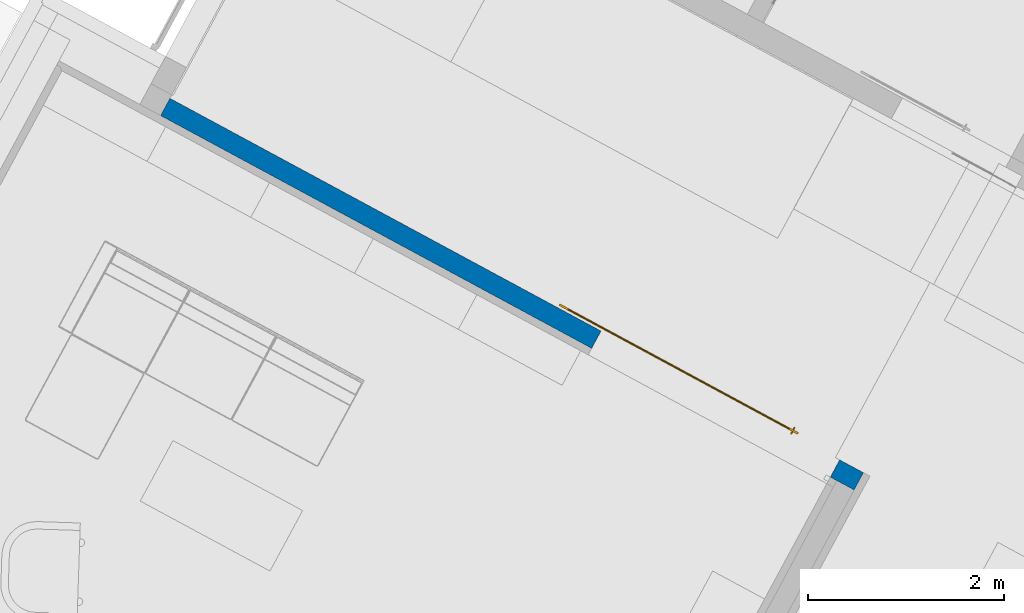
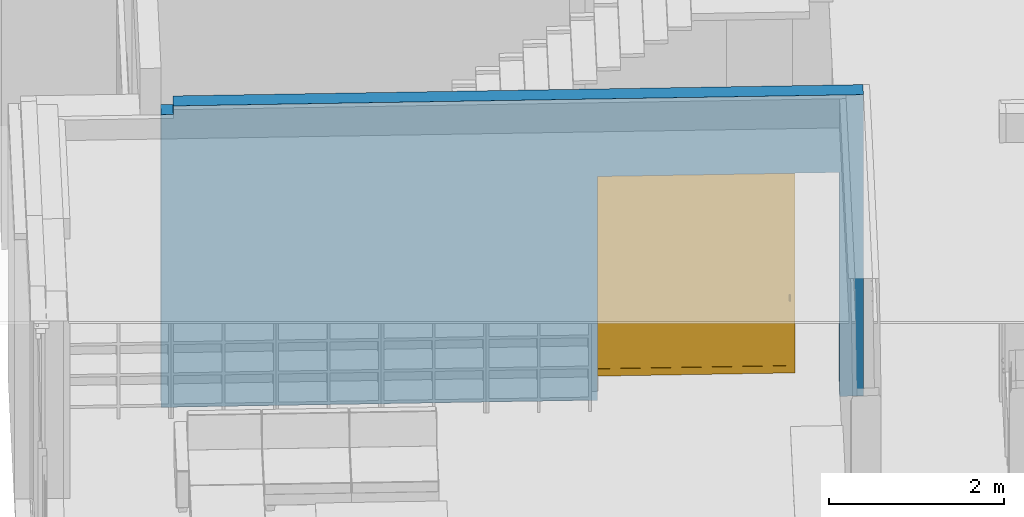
# One storey, part 7 of 52: 1 door, 1 wall, 1 opening.
"""IFC2X3 building model written with IfcOpenShell, lengths in metres."""

from ifc_helpers import new_model, entity, si_unit, converted_unit, derived_unit, money_unit, direction, frame, origin_with_axes, origin_2d_with_axis, place, context, subcontext, project, spatial, rectangle, extrude, faceted_brep, material, type_object, element, fill, save


model = new_model("IFC2X3")

# Units and contexts
model_context = context("Model", 3, precision=1e-05, world=origin_with_axes(), true_north=direction((0.0, 1.0)))
body_context = subcontext(model_context, "Body", "Model", "MODEL_VIEW")
ifc_project = project(units=[si_unit("LENGTHUNIT", "METRE"), si_unit("AREAUNIT", "SQUARE_METRE"), si_unit("VOLUMEUNIT", "CUBIC_METRE"), converted_unit("PLANEANGLEUNIT", "DEGREE", entity("IfcPlaneAngleMeasure", 0.0174532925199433), si_unit("PLANEANGLEUNIT", "RADIAN"), dimensions=[0, 0, 0, 0, 0, 0, 0]), money_unit("EUR"), converted_unit("TIMEUNIT", "Year", entity("IfcTimeMeasure", 31556926.0), si_unit("TIMEUNIT", "SECOND"), dimensions=[0, 0, 1, 0, 0, 0, 0]), si_unit("MASSUNIT", "GRAM", prefix="KILO"), si_unit("THERMODYNAMICTEMPERATUREUNIT", "DEGREE_CELSIUS"), si_unit("LUMINOUSINTENSITYUNIT", "LUMEN"), si_unit("ENERGYUNIT", "JOULE", prefix="MEGA"), derived_unit("THERMALCONDUCTANCEUNIT", [(si_unit("POWERUNIT", "WATT"), 1), (si_unit("LENGTHUNIT", "METRE"), -1), (si_unit("THERMODYNAMICTEMPERATUREUNIT", "KELVIN"), -1)]), derived_unit("SPECIFICHEATCAPACITYUNIT", [(si_unit("ENERGYUNIT", "JOULE"), 1), (si_unit("MASSUNIT", "GRAM", prefix="KILO"), -1), (si_unit("THERMODYNAMICTEMPERATUREUNIT", "KELVIN"), -1)]), derived_unit("MASSDENSITYUNIT", [(si_unit("MASSUNIT", "GRAM", prefix="KILO"), 1), (si_unit("VOLUMEUNIT", "CUBIC_METRE"), -1)])], contexts=[model_context])

# Site, building, storey
site_placement = place(None, frame((-3.949935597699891, 1.740105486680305, 0.0), z_axis=(0.0, 0.0, 1.0), x_axis=(0.8799804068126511, -0.475009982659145, 0.0)))
site = spatial("IfcSite", under=ifc_project, at=site_placement, Name="Gelände", CompositionType="ELEMENT")
building_placement = place(site_placement, origin_with_axes())
building = spatial("IfcBuilding", under=site, at=building_placement, Name="Gebäude", CompositionType="ELEMENT")
storey_placement = place(building_placement, origin_with_axes())
storey = spatial("IfcBuildingStorey", under=building, at=storey_placement, Name="Erdgeschoss", CompositionType="ELEMENT", Elevation=0.0)

# Wall, opening, door
ifc_material = material(Name="_SIWH - Beton, Stahlbeton")
wall_type = type_object("IfcWallType", Name="_SIWH - WI | Stb. 20 | 20cm 200", PredefinedType="NOTDEFINED")
wall_placement = place(storey_placement, frame((5.597481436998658, 7.153034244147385, -0.18), z_axis=(0.0, 0.0, 1.0), x_axis=(0.9999999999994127, 1.083822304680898e-06, 0.0)))
wall = element("IfcWall", 1, at=wall_placement, inside=storey, type_object=wall_type, material=ifc_material, Name="I-Wand004", context=body_context, shape_type="Brep", body=[
    faceted_brep([(4.98670279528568, 0.1999945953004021, 3.12), (4.98670279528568, 0.1999945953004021, 0.18), (4.986702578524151, 0.1999945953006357, 0.0), (2.167644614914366e-07, 0.1999999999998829, 0.0), (2.167644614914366e-07, 0.1999999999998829, 4.080000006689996), (0.1399994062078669, 0.1999998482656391, 4.080000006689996), (0.1399994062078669, 0.1999998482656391, 4.200000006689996), (8.021702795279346, 0.199991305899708, 4.200000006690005), (8.021702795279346, 0.1999913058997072, 0.0), (7.746702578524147, 0.1999916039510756, 0.0), (7.746702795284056, 0.1999916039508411, 0.18), (7.746702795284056, 0.1999916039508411, 3.12), (4.98670257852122, -5.404699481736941e-06, 3.12), (4.98670257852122, -5.404699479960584e-06, 0.18), (4.986702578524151, -5.404699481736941e-06, 0.0), (0.0, 0.0, 0.0), (0.0, 0.0, 4.080000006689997), (0.1399991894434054, -1.517342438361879e-07, 4.080000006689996), (0.1399991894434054, -1.517342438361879e-07, 4.200000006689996), (8.021702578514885, -8.694100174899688e-06, 4.200000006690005), (8.021702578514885, -8.694100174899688e-06, 0.0), (7.746702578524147, -8.396049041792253e-06, 0.0), (7.746702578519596, -8.396049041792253e-06, 0.18), (7.746702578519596, -8.396049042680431e-06, 3.12)], [[[0, 1, 2, 3, 4, 5, 6, 7, 8, 9, 10, 11]], [[1, 0, 12, 13]], [[1, 13, 14, 2]], [[2, 14, 15, 3]], [[16, 4, 3, 15]], [[5, 4, 16, 17]], [[18, 6, 5, 17]], [[6, 18, 19, 7]], [[19, 20, 8, 7]], [[21, 9, 8, 20]], [[22, 10, 9, 21]], [[11, 10, 22, 23]], [[0, 11, 23, 12]], [[23, 22, 21, 20, 19, 18, 17, 16, 15, 14, 13, 12]]]),
])
opening_placement = place(wall_placement, frame((6.366702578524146, 0.0, 0.18), z_axis=(0.0, 0.0, 1.0), x_axis=(1.0, 0.0, 0.0)))
opening = element("IfcOpeningElement", 2, at=opening_placement, cuts=wall, Name="Tür-024", context=body_context, shape_type="SweptSolid", body=[
    extrude(rectangle(XDim=2.759999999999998, YDim=2.94, at=origin_2d_with_axis()), frame((-2.167607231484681e-07, -0.1999999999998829, 1.47), z_axis=(1.083822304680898e-06, 0.9999999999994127, 0.0), x_axis=(0.9999999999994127, -1.083822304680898e-06, 0.0)), (0.0, 0.0, 1.0), 0.65),
])
door_style = type_object("IfcDoorStyle", Name="Schiebetür 02 1-Fl 26", ConstructionType="NOTDEFINED", OperationType="SLIDING_TO_RIGHT", ParameterTakesPrecedence=False, Sizeable=False)
door_placement = place(opening_placement, frame((-1.379999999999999, 0.0, 0.0), z_axis=(0.0, 0.0, 1.0), x_axis=(1.0, 0.0, 0.0)))
door = element("IfcDoor", 3, at=door_placement, inside=storey, type_object=door_style, Name="Tür-024", OverallHeight=2.94, OverallWidth=2.76, context=body_context, shape_type="Brep", body=[
    faceted_brep([(-0.4999497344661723, 0.2449951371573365, 0.09999999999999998), (-0.3999497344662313, 0.2449950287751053, 0.09999999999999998), (-0.3999497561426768, 0.2249950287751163, 0.09999999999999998), (-0.4999497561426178, 0.2249951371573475, 0.09999999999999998), (-0.4999497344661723, 0.2449951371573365, 2.8399), (-0.3999497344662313, 0.2449950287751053, 2.8399), (-0.3999497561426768, 0.2249950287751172, 2.8399), (-0.4999497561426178, 0.2249951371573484, 2.8399)], [[[0, 1, 2, 3]], [[0, 4, 5, 1]], [[1, 5, 6, 2]], [[3, 2, 6, 7]], [[4, 0, 3, 7]], [[5, 4, 7, 6]]]),
    faceted_brep([(2.259950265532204, 0.2449921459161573, 2.8399), (2.159950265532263, 0.2449922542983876, 2.8399), (2.159950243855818, 0.2249922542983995, 2.8399), (2.259950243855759, 0.2249921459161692, 2.8399), (2.259950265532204, 0.2449921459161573, 0.09999999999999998), (2.159950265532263, 0.2449922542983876, 0.09999999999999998), (2.159950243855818, 0.2249922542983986, 0.09999999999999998), (2.259950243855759, 0.2249921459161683, 0.09999999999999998)], [[[0, 1, 2, 3]], [[0, 4, 5, 1]], [[1, 5, 6, 2]], [[3, 2, 6, 7]], [[4, 0, 3, 7]], [[5, 4, 7, 6]]]),
    faceted_brep([(2.259950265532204, 0.2449921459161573, 0.0), (2.259950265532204, 0.2449921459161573, 0.09999999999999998), (2.259950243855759, 0.2249921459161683, 0.09999999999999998), (2.259950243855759, 0.2249921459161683, 0.0), (-0.4999497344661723, 0.2449951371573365, 0.0), (-0.4999497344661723, 0.2449951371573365, 0.09999999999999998), (-0.3999497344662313, 0.2449950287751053, 0.09999999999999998), (2.159950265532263, 0.2449922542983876, 0.09999999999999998), (2.159950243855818, 0.2249922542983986, 0.09999999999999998), (-0.3999497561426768, 0.2249950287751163, 0.09999999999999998), (-0.4999497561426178, 0.2249951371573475, 0.09999999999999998), (-0.4999497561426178, 0.2249951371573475, 0.0)], [[[0, 1, 2, 3]], [[0, 4, 5, 6, 7, 1]], [[1, 7, 8, 2]], [[3, 2, 8, 9, 10, 11]], [[4, 0, 3, 11]], [[5, 4, 11, 10]], [[6, 5, 10, 9]], [[7, 6, 9, 8]]]),
    faceted_brep([(-0.4999497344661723, 0.2449951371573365, 2.9399), (-0.4999497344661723, 0.2449951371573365, 2.8399), (-0.4999497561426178, 0.2249951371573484, 2.8399), (-0.4999497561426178, 0.2249951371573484, 2.9399), (2.259950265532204, 0.2449921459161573, 2.9399), (2.259950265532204, 0.2449921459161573, 2.8399), (2.159950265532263, 0.2449922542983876, 2.8399), (-0.3999497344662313, 0.2449950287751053, 2.8399), (-0.3999497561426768, 0.2249950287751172, 2.8399), (2.159950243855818, 0.2249922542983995, 2.8399), (2.259950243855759, 0.2249921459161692, 2.8399), (2.259950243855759, 0.2249921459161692, 2.9399)], [[[0, 1, 2, 3]], [[0, 4, 5, 6, 7, 1]], [[1, 7, 8, 2]], [[3, 2, 8, 9, 10, 11]], [[4, 0, 3, 11]], [[5, 4, 11, 10]], [[6, 5, 10, 9]], [[7, 6, 9, 8]]]),
    faceted_brep([(-0.399949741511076, 0.2384950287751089, 0.09999999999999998), (2.159950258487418, 0.2384922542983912, 0.09999999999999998), (2.159950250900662, 0.231492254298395, 0.09999999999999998), (-0.3999497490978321, 0.2314950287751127, 0.09999999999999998), (-0.399949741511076, 0.2384950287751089, 2.8399), (2.159950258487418, 0.2384922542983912, 2.8399), (2.159950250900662, 0.2314922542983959, 2.8399), (-0.3999497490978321, 0.2314950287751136, 2.8399)], [[[0, 1, 2, 3]], [[0, 4, 5, 1]], [[1, 5, 6, 2]], [[3, 2, 6, 7]], [[4, 0, 3, 7]], [[5, 4, 7, 6]]]),
    faceted_brep([(2.192950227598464, 0.209992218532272, 1.085980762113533), (2.193888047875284, 0.2082422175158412, 1.089011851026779), (2.193888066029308, 0.2249922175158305, 1.0935), (2.192950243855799, 0.2249922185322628, 1.09), (2.19295021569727, 0.1990114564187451, 1.075), (2.193888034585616, 0.1959803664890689, 1.07675), (2.196450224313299, 0.2069611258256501, 1.091230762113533), (2.196450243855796, 0.2249922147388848, 1.096062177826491), (2.199950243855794, 0.2249922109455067, 1.097), (2.203450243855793, 0.2249922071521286, 1.096062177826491), (2.206012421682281, 0.2249922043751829, 1.0935), (2.206950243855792, 0.2249922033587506, 1.09), (2.206012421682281, 0.2249922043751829, 1.0865), (2.203450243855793, 0.2249922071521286, 1.083937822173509), (2.199950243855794, 0.2249922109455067, 1.083), (2.196450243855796, 0.2249922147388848, 1.083937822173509), (2.193888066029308, 0.2249922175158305, 1.0865), (2.193888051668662, 0.2117422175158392, 1.082949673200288), (2.192950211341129, 0.1949922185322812, 1.06), (2.19388802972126, 0.1914922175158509, 1.06), (2.1964502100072, 0.1937614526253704, 1.078031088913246), (2.19388804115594, 0.2020425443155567, 1.07325), (2.199950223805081, 0.2064922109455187, 1.092042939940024), (2.203450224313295, 0.206961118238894, 1.091230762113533), (2.206012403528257, 0.2082422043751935, 1.089011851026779), (2.206950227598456, 0.2099922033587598, 1.085980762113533), (2.206012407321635, 0.2117422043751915, 1.082949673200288), (2.20345023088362, 0.2130232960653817, 1.080730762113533), (2.199950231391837, 0.213492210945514, 1.079918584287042), (2.196450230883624, 0.2130233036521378, 1.080730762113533), (2.193888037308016, 0.198492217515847, 1.06), (2.196450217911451, 0.20105439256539, 1.06), (2.19995021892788, 0.2019922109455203, 1.06), (2.203450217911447, 0.2010543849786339, 1.06), (2.206012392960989, 0.1984922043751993, 1.06), (2.206950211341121, 0.194992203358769, 1.06), (2.206012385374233, 0.1914922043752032, 1.06), (2.2034502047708, 0.1889300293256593, 1.06), (2.199950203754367, 0.187992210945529, 1.06), (2.196450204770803, 0.1889300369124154, 1.06), (2.199950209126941, 0.1929492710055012, 1.0785), (2.196450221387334, 0.2042614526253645, 1.071968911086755), (2.203450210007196, 0.1937614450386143, 1.078031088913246), (2.206012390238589, 0.1959803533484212, 1.07675), (2.206950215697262, 0.1990114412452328, 1.075), (2.206012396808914, 0.202042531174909, 1.07325), (2.20345022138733, 0.2042614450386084, 1.071968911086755), (2.199950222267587, 0.2050736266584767, 1.0715)], [[[0, 1, 2, 3]], [[4, 5, 1, 0]], [[1, 6, 7, 2]], [[3, 2, 7, 8, 9, 10, 11, 12, 13, 14, 15, 16]], [[17, 0, 3, 16]], [[18, 19, 5, 4]], [[5, 20, 6, 1]], [[21, 4, 0, 17]], [[6, 22, 8, 7]], [[22, 23, 9, 8]], [[23, 24, 10, 9]], [[24, 25, 11, 10]], [[25, 26, 12, 11]], [[26, 27, 13, 12]], [[27, 28, 14, 13]], [[28, 29, 15, 14]], [[29, 17, 16, 15]], [[18, 30, 31, 32, 33, 34, 35, 36, 37, 38, 39, 19]], [[19, 39, 20, 5]], [[30, 18, 4, 21]], [[20, 40, 22, 6]], [[41, 21, 17, 29]], [[40, 42, 23, 22]], [[42, 43, 24, 23]], [[43, 44, 25, 24]], [[44, 45, 26, 25]], [[45, 46, 27, 26]], [[46, 47, 28, 27]], [[47, 41, 29, 28]], [[31, 30, 21, 41]], [[32, 31, 41, 47]], [[33, 32, 47, 46]], [[34, 33, 46, 45]], [[35, 34, 45, 44]], [[36, 35, 44, 43]], [[37, 36, 43, 42]], [[38, 37, 42, 40]], [[39, 38, 40, 20]]]),
    faceted_brep([(2.206950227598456, 0.2099922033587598, 1.014019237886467), (2.206012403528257, 0.2082422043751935, 1.010988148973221), (2.206012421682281, 0.2249922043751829, 1.0065), (2.206950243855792, 0.2249922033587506, 1.01), (2.206950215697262, 0.1990114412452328, 1.025), (2.206012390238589, 0.1959803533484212, 1.02325), (2.203450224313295, 0.206961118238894, 1.008769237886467), (2.203450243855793, 0.2249922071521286, 1.003937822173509), (2.199950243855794, 0.2249922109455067, 1.003), (2.196450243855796, 0.2249922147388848, 1.003937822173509), (2.193888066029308, 0.2249922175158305, 1.0065), (2.192950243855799, 0.2249922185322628, 1.01), (2.193888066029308, 0.2249922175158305, 1.0135), (2.196450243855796, 0.2249922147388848, 1.016062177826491), (2.199950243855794, 0.2249922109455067, 1.017), (2.203450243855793, 0.2249922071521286, 1.016062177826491), (2.206012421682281, 0.2249922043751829, 1.0135), (2.206012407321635, 0.2117422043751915, 1.017050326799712), (2.206950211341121, 0.194992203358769, 1.04), (2.206012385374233, 0.1914922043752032, 1.04), (2.203450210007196, 0.1937614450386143, 1.021968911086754), (2.206012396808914, 0.202042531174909, 1.02675), (2.199950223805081, 0.2064922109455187, 1.007957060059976), (2.196450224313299, 0.2069611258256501, 1.008769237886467), (2.193888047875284, 0.2082422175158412, 1.010988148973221), (2.192950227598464, 0.209992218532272, 1.014019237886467), (2.193888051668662, 0.2117422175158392, 1.017050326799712), (2.196450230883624, 0.2130233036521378, 1.019269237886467), (2.199950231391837, 0.213492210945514, 1.020081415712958), (2.20345023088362, 0.2130232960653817, 1.019269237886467), (2.206012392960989, 0.1984922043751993, 1.04), (2.203450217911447, 0.2010543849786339, 1.04), (2.19995021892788, 0.2019922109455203, 1.04), (2.196450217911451, 0.20105439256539, 1.04), (2.193888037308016, 0.198492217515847, 1.04), (2.192950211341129, 0.1949922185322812, 1.04), (2.19388802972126, 0.1914922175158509, 1.04), (2.196450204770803, 0.1889300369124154, 1.04), (2.199950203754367, 0.187992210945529, 1.04), (2.2034502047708, 0.1889300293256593, 1.04), (2.199950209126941, 0.1929492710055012, 1.0215), (2.20345022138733, 0.2042614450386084, 1.028031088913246), (2.1964502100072, 0.1937614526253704, 1.021968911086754), (2.193888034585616, 0.1959803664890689, 1.02325), (2.19295021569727, 0.1990114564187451, 1.025), (2.19388804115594, 0.2020425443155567, 1.02675), (2.196450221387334, 0.2042614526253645, 1.028031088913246), (2.199950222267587, 0.2050736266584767, 1.0285)], [[[0, 1, 2, 3]], [[4, 5, 1, 0]], [[1, 6, 7, 2]], [[3, 2, 7, 8, 9, 10, 11, 12, 13, 14, 15, 16]], [[17, 0, 3, 16]], [[18, 19, 5, 4]], [[5, 20, 6, 1]], [[21, 4, 0, 17]], [[6, 22, 8, 7]], [[22, 23, 9, 8]], [[23, 24, 10, 9]], [[24, 25, 11, 10]], [[25, 26, 12, 11]], [[26, 27, 13, 12]], [[27, 28, 14, 13]], [[28, 29, 15, 14]], [[29, 17, 16, 15]], [[18, 30, 31, 32, 33, 34, 35, 36, 37, 38, 39, 19]], [[19, 39, 20, 5]], [[30, 18, 4, 21]], [[20, 40, 22, 6]], [[41, 21, 17, 29]], [[40, 42, 23, 22]], [[42, 43, 24, 23]], [[43, 44, 25, 24]], [[44, 45, 26, 25]], [[45, 46, 27, 26]], [[46, 47, 28, 27]], [[47, 41, 29, 28]], [[31, 30, 21, 41]], [[32, 31, 41, 47]], [[33, 32, 47, 46]], [[34, 33, 46, 45]], [[35, 34, 45, 44]], [[36, 35, 44, 43]], [[37, 36, 43, 42]], [[38, 37, 42, 40]], [[39, 38, 40, 20]]]),
    faceted_brep([(2.192950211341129, 0.1949922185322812, 1.04), (2.192950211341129, 0.1949922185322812, 1.06), (2.193888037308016, 0.198492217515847, 1.06), (2.193888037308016, 0.198492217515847, 1.04), (2.19388802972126, 0.1914922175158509, 1.04), (2.19388802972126, 0.1914922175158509, 1.06), (2.196450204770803, 0.1889300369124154, 1.06), (2.199950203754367, 0.187992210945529, 1.06), (2.2034502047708, 0.1889300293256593, 1.06), (2.206012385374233, 0.1914922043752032, 1.06), (2.206950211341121, 0.194992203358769, 1.06), (2.206012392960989, 0.1984922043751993, 1.06), (2.203450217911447, 0.2010543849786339, 1.06), (2.19995021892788, 0.2019922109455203, 1.06), (2.196450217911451, 0.20105439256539, 1.06), (2.196450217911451, 0.20105439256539, 1.04), (2.19995021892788, 0.2019922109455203, 1.04), (2.203450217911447, 0.2010543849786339, 1.04), (2.206012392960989, 0.1984922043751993, 1.04), (2.206950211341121, 0.194992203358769, 1.04), (2.206012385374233, 0.1914922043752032, 1.04), (2.2034502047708, 0.1889300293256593, 1.04), (2.199950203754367, 0.187992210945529, 1.04), (2.196450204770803, 0.1889300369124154, 1.04)], [[[0, 1, 2, 3]], [[4, 5, 1, 0]], [[1, 5, 6, 7, 8, 9, 10, 11, 12, 13, 14, 2]], [[3, 2, 14, 15]], [[0, 3, 15, 16, 17, 18, 19, 20, 21, 22, 23, 4]], [[23, 6, 5, 4]], [[22, 7, 6, 23]], [[21, 8, 7, 22]], [[20, 9, 8, 21]], [[19, 10, 9, 20]], [[18, 11, 10, 19]], [[17, 12, 11, 18]], [[16, 13, 12, 17]], [[15, 14, 13, 16]]]),
    faceted_brep([(2.19295028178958, 0.2599922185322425, 1.085980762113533), (2.192950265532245, 0.2449922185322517, 1.09), (2.193888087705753, 0.2449922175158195, 1.0935), (2.193888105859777, 0.2617422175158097, 1.089011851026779), (2.193888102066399, 0.2582422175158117, 1.082949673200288), (2.193888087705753, 0.2449922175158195, 1.0865), (2.196450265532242, 0.2449922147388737, 1.083937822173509), (2.199950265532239, 0.2449922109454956, 1.083), (2.203450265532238, 0.2449922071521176, 1.083937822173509), (2.206012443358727, 0.2449922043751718, 1.0865), (2.206950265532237, 0.2449922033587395, 1.09), (2.206012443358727, 0.2449922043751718, 1.0935), (2.203450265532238, 0.2449922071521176, 1.096062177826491), (2.199950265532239, 0.2449922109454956, 1.097), (2.196450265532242, 0.2449922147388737, 1.096062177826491), (2.196450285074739, 0.2630233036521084, 1.091230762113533), (2.192950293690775, 0.2709729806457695, 1.075), (2.193888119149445, 0.2740040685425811, 1.07675), (2.196450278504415, 0.2569611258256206, 1.080730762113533), (2.193888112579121, 0.2679418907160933, 1.07325), (2.199950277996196, 0.2564922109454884, 1.079918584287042), (2.203450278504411, 0.2569611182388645, 1.080730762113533), (2.206012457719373, 0.258242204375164, 1.082949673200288), (2.206950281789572, 0.2599922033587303, 1.085980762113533), (2.206012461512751, 0.261742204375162, 1.089011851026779), (2.203450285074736, 0.2630232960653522, 1.091230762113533), (2.199950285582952, 0.2634922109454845, 1.092042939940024), (2.196450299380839, 0.2762229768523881, 1.078031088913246), (2.192950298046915, 0.2749922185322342, 1.06), (2.193888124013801, 0.2784922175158, 1.06), (2.196450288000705, 0.2657229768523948, 1.071968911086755), (2.193888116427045, 0.2714922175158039, 1.06), (2.199950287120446, 0.2649107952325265, 1.0715), (2.203450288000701, 0.2657229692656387, 1.071968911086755), (2.206012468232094, 0.2679418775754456, 1.07325), (2.206950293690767, 0.2709729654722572, 1.075), (2.206012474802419, 0.2740040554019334, 1.07675), (2.203450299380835, 0.2762229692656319, 1.078031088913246), (2.199950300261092, 0.2770351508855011, 1.0785), (2.196450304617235, 0.281054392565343, 1.06), (2.199950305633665, 0.2819922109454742, 1.06), (2.203450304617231, 0.2810543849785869, 1.06), (2.206012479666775, 0.2784922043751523, 1.06), (2.206950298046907, 0.274992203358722, 1.06), (2.206012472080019, 0.2714922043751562, 1.06), (2.203450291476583, 0.2689300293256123, 1.06), (2.199950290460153, 0.267992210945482, 1.06), (2.196450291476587, 0.2689300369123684, 1.06)], [[[0, 1, 2, 3]], [[4, 5, 1, 0]], [[1, 5, 6, 7, 8, 9, 10, 11, 12, 13, 14, 2]], [[3, 2, 14, 15]], [[16, 0, 3, 17]], [[18, 6, 5, 4]], [[19, 4, 0, 16]], [[20, 7, 6, 18]], [[21, 8, 7, 20]], [[22, 9, 8, 21]], [[23, 10, 9, 22]], [[24, 11, 10, 23]], [[25, 12, 11, 24]], [[26, 13, 12, 25]], [[15, 14, 13, 26]], [[17, 3, 15, 27]], [[28, 16, 17, 29]], [[30, 18, 4, 19]], [[31, 19, 16, 28]], [[32, 20, 18, 30]], [[33, 21, 20, 32]], [[34, 22, 21, 33]], [[35, 23, 22, 34]], [[36, 24, 23, 35]], [[37, 25, 24, 36]], [[38, 26, 25, 37]], [[27, 15, 26, 38]], [[29, 17, 27, 39]], [[28, 29, 39, 40, 41, 42, 43, 44, 45, 46, 47, 31]], [[47, 30, 19, 31]], [[46, 32, 30, 47]], [[45, 33, 32, 46]], [[44, 34, 33, 45]], [[43, 35, 34, 44]], [[42, 36, 35, 43]], [[41, 37, 36, 42]], [[40, 38, 37, 41]], [[39, 27, 38, 40]]]),
    faceted_brep([(2.206950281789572, 0.2599922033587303, 1.014019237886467), (2.206950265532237, 0.2449922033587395, 1.01), (2.206012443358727, 0.2449922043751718, 1.0065), (2.206012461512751, 0.261742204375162, 1.010988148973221), (2.206012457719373, 0.258242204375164, 1.017050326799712), (2.206012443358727, 0.2449922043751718, 1.0135), (2.203450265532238, 0.2449922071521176, 1.016062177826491), (2.199950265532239, 0.2449922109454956, 1.017), (2.196450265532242, 0.2449922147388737, 1.016062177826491), (2.193888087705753, 0.2449922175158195, 1.0135), (2.192950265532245, 0.2449922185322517, 1.01), (2.193888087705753, 0.2449922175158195, 1.0065), (2.196450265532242, 0.2449922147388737, 1.003937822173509), (2.199950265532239, 0.2449922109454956, 1.003), (2.203450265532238, 0.2449922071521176, 1.003937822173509), (2.203450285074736, 0.2630232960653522, 1.008769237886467), (2.206950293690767, 0.2709729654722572, 1.025), (2.206012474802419, 0.2740040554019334, 1.02325), (2.203450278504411, 0.2569611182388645, 1.019269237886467), (2.206012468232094, 0.2679418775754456, 1.02675), (2.199950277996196, 0.2564922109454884, 1.020081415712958), (2.196450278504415, 0.2569611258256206, 1.019269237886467), (2.193888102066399, 0.2582422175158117, 1.017050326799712), (2.19295028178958, 0.2599922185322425, 1.014019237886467), (2.193888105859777, 0.2617422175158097, 1.010988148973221), (2.196450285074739, 0.2630233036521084, 1.008769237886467), (2.199950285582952, 0.2634922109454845, 1.007957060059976), (2.203450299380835, 0.2762229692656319, 1.021968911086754), (2.206950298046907, 0.274992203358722, 1.04), (2.206012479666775, 0.2784922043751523, 1.04), (2.203450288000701, 0.2657229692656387, 1.028031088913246), (2.206012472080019, 0.2714922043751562, 1.04), (2.199950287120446, 0.2649107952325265, 1.0285), (2.196450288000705, 0.2657229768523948, 1.028031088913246), (2.193888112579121, 0.2679418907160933, 1.02675), (2.192950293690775, 0.2709729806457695, 1.025), (2.193888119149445, 0.2740040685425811, 1.02325), (2.196450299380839, 0.2762229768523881, 1.021968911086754), (2.199950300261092, 0.2770351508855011, 1.0215), (2.203450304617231, 0.2810543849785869, 1.04), (2.199950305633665, 0.2819922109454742, 1.04), (2.196450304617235, 0.281054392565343, 1.04), (2.193888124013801, 0.2784922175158, 1.04), (2.192950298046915, 0.2749922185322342, 1.04), (2.193888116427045, 0.2714922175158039, 1.04), (2.196450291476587, 0.2689300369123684, 1.04), (2.199950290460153, 0.267992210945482, 1.04), (2.203450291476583, 0.2689300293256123, 1.04)], [[[0, 1, 2, 3]], [[4, 5, 1, 0]], [[1, 5, 6, 7, 8, 9, 10, 11, 12, 13, 14, 2]], [[3, 2, 14, 15]], [[16, 0, 3, 17]], [[18, 6, 5, 4]], [[19, 4, 0, 16]], [[20, 7, 6, 18]], [[21, 8, 7, 20]], [[22, 9, 8, 21]], [[23, 10, 9, 22]], [[24, 11, 10, 23]], [[25, 12, 11, 24]], [[26, 13, 12, 25]], [[15, 14, 13, 26]], [[17, 3, 15, 27]], [[28, 16, 17, 29]], [[30, 18, 4, 19]], [[31, 19, 16, 28]], [[32, 20, 18, 30]], [[33, 21, 20, 32]], [[34, 22, 21, 33]], [[35, 23, 22, 34]], [[36, 24, 23, 35]], [[37, 25, 24, 36]], [[38, 26, 25, 37]], [[27, 15, 26, 38]], [[29, 17, 27, 39]], [[28, 29, 39, 40, 41, 42, 43, 44, 45, 46, 47, 31]], [[47, 30, 19, 31]], [[46, 32, 30, 47]], [[45, 33, 32, 46]], [[44, 34, 33, 45]], [[43, 35, 34, 44]], [[42, 36, 35, 43]], [[41, 37, 36, 42]], [[40, 38, 37, 41]], [[39, 27, 38, 40]]]),
    faceted_brep([(2.192950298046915, 0.2749922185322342, 1.04), (2.193888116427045, 0.2714922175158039, 1.04), (2.193888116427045, 0.2714922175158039, 1.06), (2.192950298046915, 0.2749922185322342, 1.06), (2.193888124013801, 0.2784922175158, 1.04), (2.196450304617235, 0.281054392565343, 1.04), (2.199950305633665, 0.2819922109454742, 1.04), (2.203450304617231, 0.2810543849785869, 1.04), (2.206012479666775, 0.2784922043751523, 1.04), (2.206950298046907, 0.274992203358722, 1.04), (2.206012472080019, 0.2714922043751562, 1.04), (2.203450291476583, 0.2689300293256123, 1.04), (2.199950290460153, 0.267992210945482, 1.04), (2.196450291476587, 0.2689300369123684, 1.04), (2.196450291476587, 0.2689300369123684, 1.06), (2.199950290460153, 0.267992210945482, 1.06), (2.203450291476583, 0.2689300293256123, 1.06), (2.206012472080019, 0.2714922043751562, 1.06), (2.206950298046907, 0.274992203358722, 1.06), (2.206012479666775, 0.2784922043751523, 1.06), (2.203450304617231, 0.2810543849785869, 1.06), (2.199950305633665, 0.2819922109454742, 1.06), (2.196450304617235, 0.281054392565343, 1.06), (2.193888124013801, 0.2784922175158, 1.06)], [[[0, 1, 2, 3]], [[0, 4, 5, 6, 7, 8, 9, 10, 11, 12, 13, 1]], [[1, 13, 14, 2]], [[3, 2, 14, 15, 16, 17, 18, 19, 20, 21, 22, 23]], [[4, 0, 3, 23]], [[5, 4, 23, 22]], [[6, 5, 22, 21]], [[7, 6, 21, 20]], [[8, 7, 20, 19]], [[9, 8, 19, 18]], [[10, 9, 18, 17]], [[11, 10, 17, 16]], [[12, 11, 16, 15]], [[13, 12, 15, 14]]]),
])
fill(opening, door)

save(model, "model.ifc")
